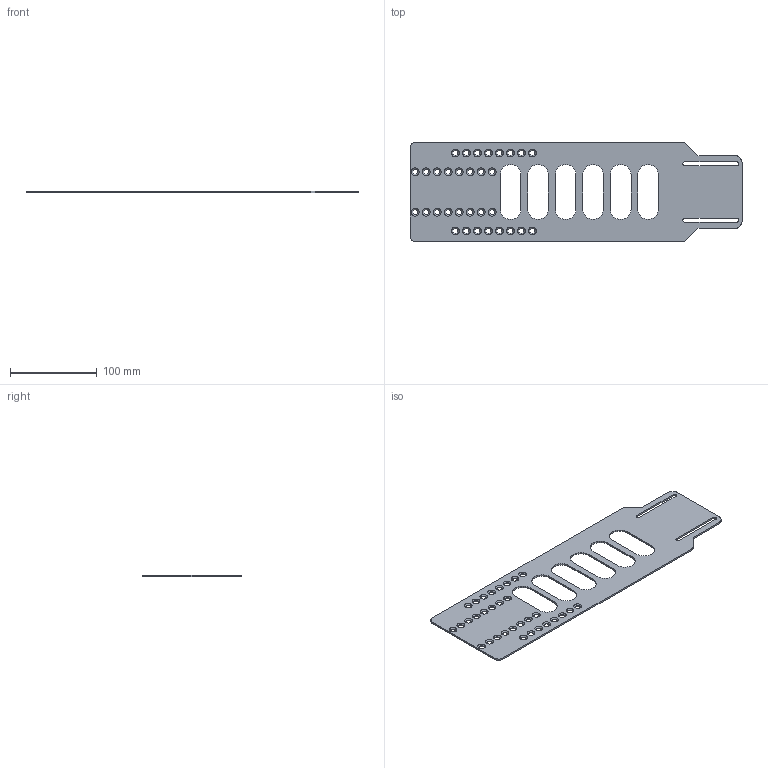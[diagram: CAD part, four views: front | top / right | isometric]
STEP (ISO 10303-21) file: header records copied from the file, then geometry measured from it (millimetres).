
FILE_DESCRIPTION((''),'2;1');
FILE_NAME('BKT_SIDE_PLT_RACK_MOUNT_LONG','2018-06-06T',('talbott'),(''),'CREO PARAMETRIC BY PTC INC, 2017480','CREO PARAMETRIC BY PTC INC, 2017480','');
FILE_SCHEMA(('AUTOMOTIVE_DESIGN { 1 0 10303 214 1 1 1 1 }'));
Length unit declared in the file: millimetre
Products named in the file (1): BKT_SIDE_PLT_RACK_MOUNT_LONG
Bounding box: 383.29 x 114.3 x 1.9 mm (x, y, z)
Volume: 60208.7 mm3; surface area: 69003.9 mm2
Topology: 1 solids, 1 shells, 180 faces, 470 edges, 292 vertices
Faces by surface type: cylinder 88, cone 64, plane 28
Entity records: 6173 total; most frequent: DIRECTION 1070, CARTESIAN_POINT 944, ORIENTED_EDGE 940, EDGE_CURVE 470, AXIS2_PLACEMENT_3D 420, VERTEX_POINT 292, EDGE_LOOP 260, CIRCLE 240
